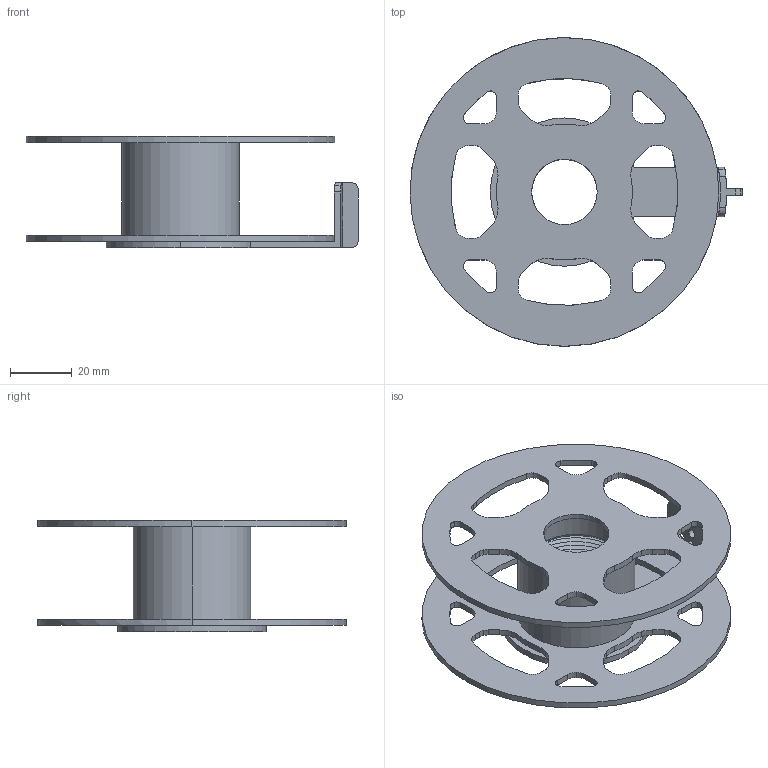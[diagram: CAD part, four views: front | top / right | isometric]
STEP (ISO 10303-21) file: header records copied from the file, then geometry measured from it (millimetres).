
FILE_DESCRIPTION(('STEP AP214'),'1');
FILE_NAME('wire_org.stp','2022-08-08T07:49:55',(' '),(' '),'Spatial InterOp 3D',' ',' ');
FILE_SCHEMA(('AUTOMOTIVE_DESIGN { 1 0 10303 214 1 1 1 1 }'));
Length unit declared in the file: metre
Products named in the file (5): wire_org; spool_D100_d30; plug; bushing_30; spool_D100_d21
Assembly tree (4 placements, depth 2):
  wire_org
    spool_D100_d30
    plug
    bushing_30
    spool_D100_d21
Bounding box: 107.5 x 100 x 36 mm (x, y, z)
Volume: 37335.3 mm3; surface area: 48375 mm2
Topology: 4 solids, 4 shells, 456 faces, 1421 edges, 962 vertices
Faces by surface type: cylinder 281, plane 129, bspline 20, torus 14, cone 12
Entity records: 40160 total; most frequent: CARTESIAN_POINT 27080, ORIENTED_EDGE 2842, DIRECTION 2688, EDGE_CURVE 1421, AXIS2_PLACEMENT_3D 1019, VERTEX_POINT 962, LINE 650, VECTOR 650
